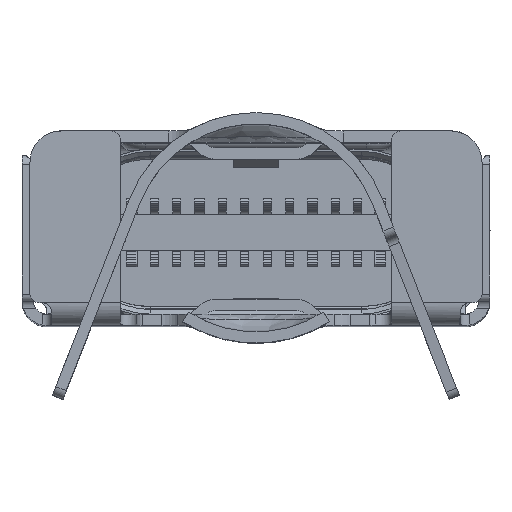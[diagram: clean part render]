
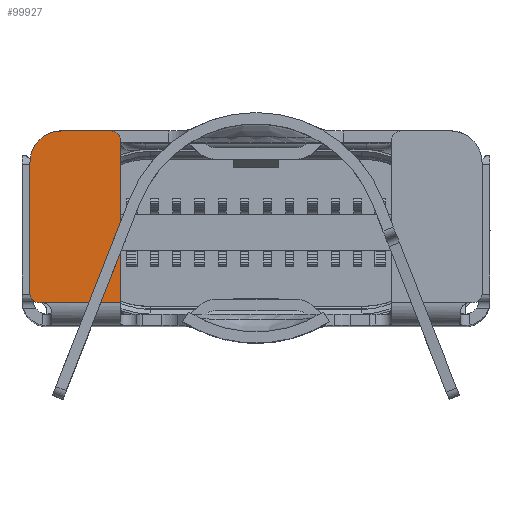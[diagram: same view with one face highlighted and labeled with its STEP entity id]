
A CAD part, top view. The second image highlights one B-rep face of the part: STEP entity #99927.
In plain terms, the highlighted planar face has unit normal (0, 0, 1).
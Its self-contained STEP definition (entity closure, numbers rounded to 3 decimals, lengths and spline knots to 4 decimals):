
#1574 = EDGE_CURVE ( 'NONE', #110723, #86954, #55563, .T. ) ;
#4415 = ORIENTED_EDGE ( 'NONE', *, *, #52847, .T. ) ;
#5617 = VECTOR ( 'NONE', #74926, 1000. ) ;
#7286 = DIRECTION ( 'NONE',  ( 1., 0., 0. ) ) ;
#9156 = ORIENTED_EDGE ( 'NONE', *, *, #21972, .T. ) ;
#11592 = VECTOR ( 'NONE', #102382, 1000. ) ;
#11776 = VECTOR ( 'NONE', #66187, 1000. ) ;
#12045 = DIRECTION ( 'NONE',  ( 0., 1., 0. ) ) ;
#13346 = ORIENTED_EDGE ( 'NONE', *, *, #42214, .T. ) ;
#13855 = VECTOR ( 'NONE', #7286, 1000. ) ;
#14016 = CARTESIAN_POINT ( 'NONE',  ( -5., 1.525, 26.9 ) ) ;
#20007 = AXIS2_PLACEMENT_3D ( 'NONE', #83467, #47772, #12045 ) ;
#21368 = VERTEX_POINT ( 'NONE', #58290 ) ;
#21972 = EDGE_CURVE ( 'NONE', #43356, #21368, #35139, .T. ) ;
#23092 = CARTESIAN_POINT ( 'NONE',  ( -3.2, 2.225, 26.9 ) ) ;
#30158 = VERTEX_POINT ( 'NONE', #112703 ) ;
#34660 = EDGE_CURVE ( 'NONE', #37902, #89540, #97454, .T. ) ;
#35119 = AXIS2_PLACEMENT_3D ( 'NONE', #105984, #115340, #104826 ) ;
#35139 = CIRCLE ( 'NONE', #64986, 0.2 ) ;
#35622 = ORIENTED_EDGE ( 'NONE', *, *, #48547, .T. ) ;
#37902 = VERTEX_POINT ( 'NONE', #58909 ) ;
#38720 = VERTEX_POINT ( 'NONE', #50262 ) ;
#40409 = CARTESIAN_POINT ( 'NONE',  ( -3.2, 2.225, 26.9 ) ) ;
#40633 = DIRECTION ( 'NONE',  ( 0., 0., 1. ) ) ;
#42214 = EDGE_CURVE ( 'NONE', #38720, #43356, #94223, .T. ) ;
#43327 = ORIENTED_EDGE ( 'NONE', *, *, #72436, .T. ) ;
#43356 = VERTEX_POINT ( 'NONE', #45098 ) ;
#44832 = VECTOR ( 'NONE', #76154, 1000. ) ;
#45098 = CARTESIAN_POINT ( 'NONE',  ( -5., -1.375, 26.9 ) ) ;
#47772 = DIRECTION ( 'NONE',  ( 0., 0., 1. ) ) ;
#48547 = EDGE_CURVE ( 'NONE', #86954, #30158, #93671, .T. ) ;
#50262 = CARTESIAN_POINT ( 'NONE',  ( -5., 1.525, 26.9 ) ) ;
#51040 = ORIENTED_EDGE ( 'NONE', *, *, #97183, .T. ) ;
#52832 = DIRECTION ( 'NONE',  ( -1., 0., 0. ) ) ;
#52847 = EDGE_CURVE ( 'NONE', #21368, #37902, #103641, .T. ) ;
#53035 = ORIENTED_EDGE ( 'NONE', *, *, #34660, .T. ) ;
#55563 = CIRCLE ( 'NONE', #61161, 0.2 ) ;
#58290 = CARTESIAN_POINT ( 'NONE',  ( -4.8, -1.575, 26.9 ) ) ;
#58909 = CARTESIAN_POINT ( 'NONE',  ( -4.725, -1.575, 26.9 ) ) ;
#60595 = CARTESIAN_POINT ( 'NONE',  ( -4.825, -1.575, 26.9 ) ) ;
#61161 = AXIS2_PLACEMENT_3D ( 'NONE', #84533, #40633, #76920 ) ;
#64986 = AXIS2_PLACEMENT_3D ( 'NONE', #114873, #99044, #52832 ) ;
#66187 = DIRECTION ( 'NONE',  ( -1., 0., 0. ) ) ;
#70305 = PLANE ( 'NONE',  #35119 ) ;
#72436 = EDGE_CURVE ( 'NONE', #89540, #110723, #91862, .T. ) ;
#74926 = DIRECTION ( 'NONE',  ( 0., -1., 0. ) ) ;
#74942 = CARTESIAN_POINT ( 'NONE',  ( -3., -1.575, 26.9 ) ) ;
#76154 = DIRECTION ( 'NONE',  ( 1., 0., 0. ) ) ;
#76920 = DIRECTION ( 'NONE',  ( 1., 0., 0. ) ) ;
#79849 = CIRCLE ( 'NONE', #20007, 0.7 ) ;
#83467 = CARTESIAN_POINT ( 'NONE',  ( -4.3, 1.525, 26.9 ) ) ;
#84533 = CARTESIAN_POINT ( 'NONE',  ( -3.2, 2.025, 26.9 ) ) ;
#86878 = CARTESIAN_POINT ( 'NONE',  ( -3., 2.025, 26.9 ) ) ;
#86954 = VERTEX_POINT ( 'NONE', #23092 ) ;
#87552 = ORIENTED_EDGE ( 'NONE', *, *, #1574, .T. ) ;
#88423 = FACE_OUTER_BOUND ( 'NONE', #110823, .T. ) ;
#89540 = VERTEX_POINT ( 'NONE', #74942 ) ;
#91862 = LINE ( 'NONE', #109425, #11592 ) ;
#93671 = LINE ( 'NONE', #40409, #11776 ) ;
#94223 = LINE ( 'NONE', #14016, #5617 ) ;
#96028 = CARTESIAN_POINT ( 'NONE',  ( -4.8, -1.575, 26.9 ) ) ;
#97183 = EDGE_CURVE ( 'NONE', #30158, #38720, #79849, .T. ) ;
#97454 = LINE ( 'NONE', #60595, #13855 ) ;
#99044 = DIRECTION ( 'NONE',  ( 0., 0., 1. ) ) ;
#99927 = ADVANCED_FACE ( 'NONE', ( #88423 ), #70305, .T. ) ;
#102382 = DIRECTION ( 'NONE',  ( 0., 1., 0. ) ) ;
#103641 = LINE ( 'NONE', #96028, #44832 ) ;
#104826 = DIRECTION ( 'NONE',  ( 1., 0., 0. ) ) ;
#105984 = CARTESIAN_POINT ( 'NONE',  ( 0., 0.15, 26.9 ) ) ;
#109425 = CARTESIAN_POINT ( 'NONE',  ( -3., -1.575, 26.9 ) ) ;
#110723 = VERTEX_POINT ( 'NONE', #86878 ) ;
#110823 = EDGE_LOOP ( 'NONE', ( #35622, #51040, #13346, #9156, #4415, #53035, #43327, #87552 ) ) ;
#112703 = CARTESIAN_POINT ( 'NONE',  ( -4.3, 2.225, 26.9 ) ) ;
#114873 = CARTESIAN_POINT ( 'NONE',  ( -4.8, -1.375, 26.9 ) ) ;
#115340 = DIRECTION ( 'NONE',  ( 0., 0., 1. ) ) ;
